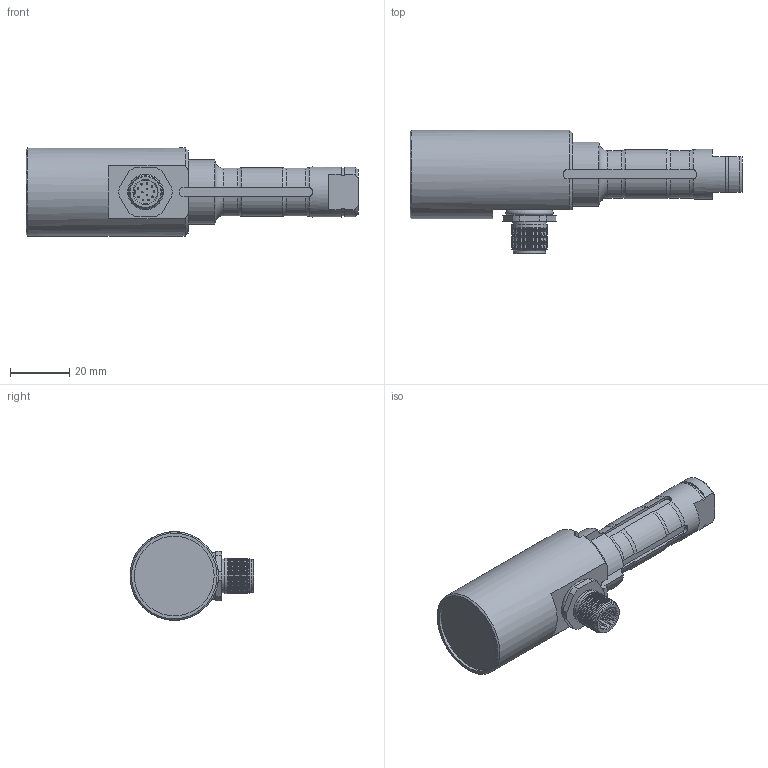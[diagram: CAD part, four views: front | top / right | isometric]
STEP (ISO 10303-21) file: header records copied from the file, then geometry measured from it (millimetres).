
FILE_DESCRIPTION(/* description */ ('Alibre Inc.'),/* implementation_level */ '2;1');
FILE_NAME(/* name */ 'export-2A0FE0F7-4FDC-4B3F-B155-95390C0EB42E',/* time_stamp */ '2024-02-13T14:38:51+01:00',/* author */ (''),/* organization */ (''),/* preprocessor_version */ 'ST-DEVELOPER v17',/* originating_system */ 'Alibre',/* authorisation */ '');
FILE_SCHEMA (('CONFIG_CONTROL_DESIGN'));
Length unit declared in the file: centimetre
Bounding box: 112.5 x 42 x 30 mm (x, y, z)
Volume: 50011.7 mm3; surface area: 13782.1 mm2
Topology: 16 solids, 17 shells, 339 faces, 804 edges, 504 vertices
Faces by surface type: plane 144, cylinder 111, cone 66, torus 18
Full cylindrical faces by diameter (mm): 0.5 x22, 8 x2, 10 x1, 11 x1, 11.5 x1, 12 x19, 13 x2, 14.5 x1, 17 x1, 27 x1, 30 x1
Entity records: 8833 total; most frequent: CARTESIAN_POINT 1967, ORIENTED_EDGE 1402, DIRECTION 1112, EDGE_CURVE 684, VERTEX_POINT 482, EDGE_LOOP 474, FACE_BOUND 474, AXIS2_PLACEMENT_3D 472
